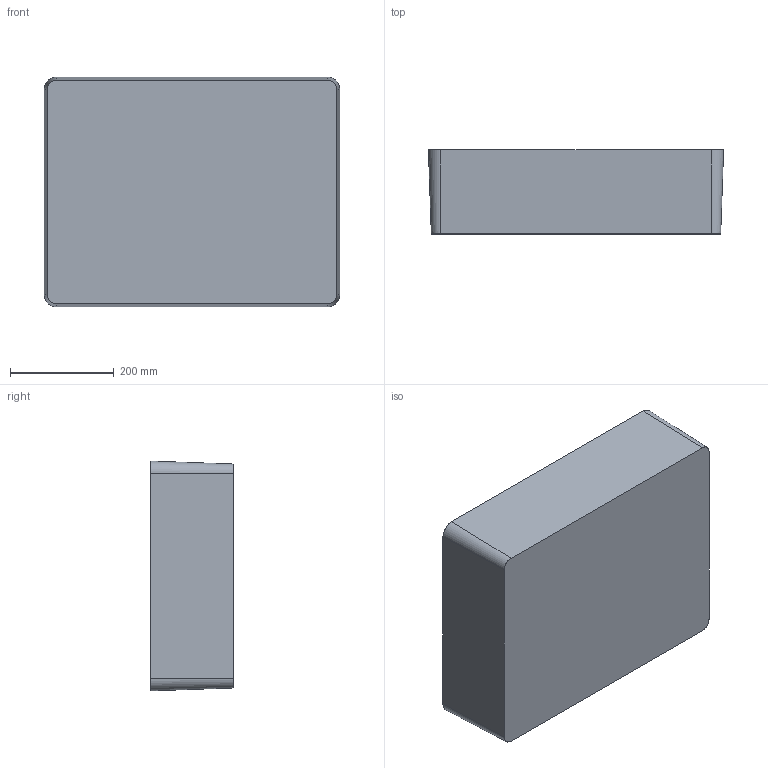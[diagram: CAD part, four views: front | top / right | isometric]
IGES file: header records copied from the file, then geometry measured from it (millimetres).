
Start section: SolidWorks IGES file using analytic representation for surfaces
Global section: file name: C:\working\Temporary Viewing Files\1602\1602-CASE-BOT.IGS; native system: SolidWorks 2005 by SolidWorks Corporation; preprocessor: SolidWorks 2005 by SolidWorks Corporation; author: akameda; date: 051005.135349; units: inch
Bounding box: 569.11 x 161.8 x 443 mm (x, y, z)
Surface area: 1089620.2 mm2 (no closed solid volume)
Topology: 0 solids, 0 shells, 143 faces, 2417 edges, 2417 vertices
Faces by surface type: bspline 72, revolution 71
